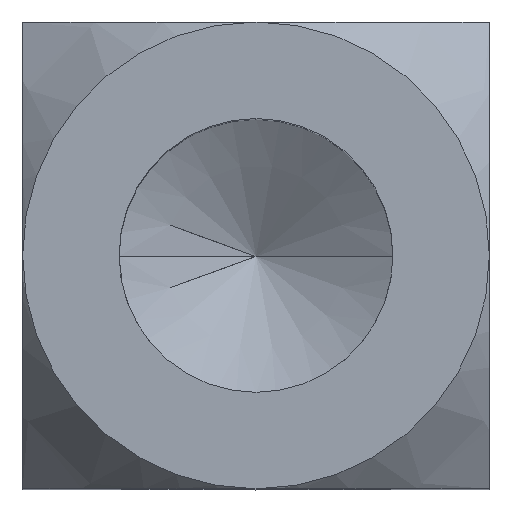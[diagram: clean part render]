
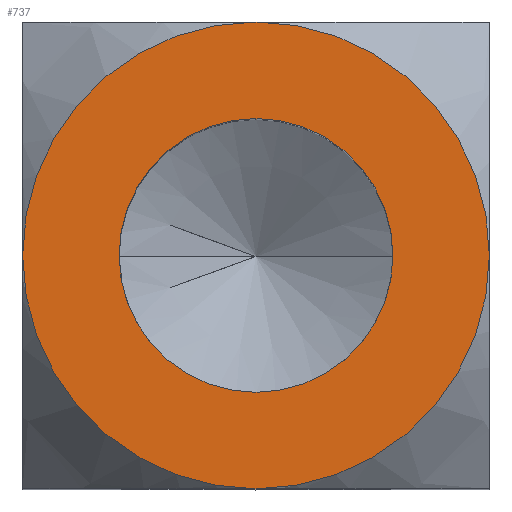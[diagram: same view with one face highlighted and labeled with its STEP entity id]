
A CAD part, top view. The second image highlights one B-rep face of the part: STEP entity #737.
In plain terms, the highlighted planar face has unit normal (0, 0, 1).
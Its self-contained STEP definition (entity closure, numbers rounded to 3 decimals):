
#25 = CARTESIAN_POINT ( 'NONE',  ( 0., 0., 22. ) ) ;
#64 = DIRECTION ( 'NONE',  ( 0., 0., 1. ) ) ;
#78 = ORIENTED_EDGE ( 'NONE', *, *, #853, .T. ) ;
#108 = ORIENTED_EDGE ( 'NONE', *, *, #408, .F. ) ;
#109 = PLANE ( 'NONE',  #1030 ) ;
#112 = EDGE_CURVE ( 'NONE', #493, #495, #297, .T. ) ;
#132 = AXIS2_PLACEMENT_3D ( 'NONE', #685, #988, #965 ) ;
#148 = CIRCLE ( 'NONE', #372, 7.5 ) ;
#157 = CARTESIAN_POINT ( 'NONE',  ( -4.4, 0., 22. ) ) ;
#218 = DIRECTION ( 'NONE',  ( 0., -1., 0. ) ) ;
#229 = CIRCLE ( 'NONE', #389, 4.4 ) ;
#274 = CARTESIAN_POINT ( 'NONE',  ( -7.5, 0., 22. ) ) ;
#297 = CIRCLE ( 'NONE', #880, 7.5 ) ;
#350 = EDGE_CURVE ( 'NONE', #495, #644, #477, .T. ) ;
#355 = CARTESIAN_POINT ( 'NONE',  ( 7.5, 0., 22. ) ) ;
#364 = FACE_OUTER_BOUND ( 'NONE', #1067, .T. ) ;
#369 = DIRECTION ( 'NONE',  ( 0., 0., 1. ) ) ;
#372 = AXIS2_PLACEMENT_3D ( 'NONE', #1044, #64, #1124 ) ;
#389 = AXIS2_PLACEMENT_3D ( 'NONE', #835, #1018, #218 ) ;
#401 = AXIS2_PLACEMENT_3D ( 'NONE', #25, #562, #1065 ) ;
#408 = EDGE_CURVE ( 'NONE', #1060, #531, #229, .T. ) ;
#451 = CARTESIAN_POINT ( 'NONE',  ( 4.4, 0., 22. ) ) ;
#466 = CARTESIAN_POINT ( 'NONE',  ( -7.59, -7.59, 22. ) ) ;
#468 = ORIENTED_EDGE ( 'NONE', *, *, #624, .T. ) ;
#477 = CIRCLE ( 'NONE', #401, 7.5 ) ;
#493 = VERTEX_POINT ( 'NONE', #1033 ) ;
#495 = VERTEX_POINT ( 'NONE', #355 ) ;
#531 = VERTEX_POINT ( 'NONE', #157 ) ;
#562 = DIRECTION ( 'NONE',  ( 0., 0., 1. ) ) ;
#593 = DIRECTION ( 'NONE',  ( 0., -1., 0. ) ) ;
#597 = CIRCLE ( 'NONE', #132, 7.5 ) ;
#624 = EDGE_CURVE ( 'NONE', #644, #1040, #597, .T. ) ;
#644 = VERTEX_POINT ( 'NONE', #1073 ) ;
#684 = EDGE_LOOP ( 'NONE', ( #108, #740 ) ) ;
#685 = CARTESIAN_POINT ( 'NONE',  ( 0., 0., 22. ) ) ;
#725 = DIRECTION ( 'NONE',  ( 1., 0., 0. ) ) ;
#737 = ADVANCED_FACE ( 'NONE', ( #1055, #364 ), #109, .T. ) ;
#740 = ORIENTED_EDGE ( 'NONE', *, *, #1104, .F. ) ;
#760 = CARTESIAN_POINT ( 'NONE',  ( 0., 0., 22. ) ) ;
#761 = DIRECTION ( 'NONE',  ( 0., 0., 1. ) ) ;
#822 = CIRCLE ( 'NONE', #910, 4.4 ) ;
#835 = CARTESIAN_POINT ( 'NONE',  ( 0., 0., 22. ) ) ;
#848 = DIRECTION ( 'NONE',  ( 0., 0., 1. ) ) ;
#849 = ORIENTED_EDGE ( 'NONE', *, *, #112, .T. ) ;
#853 = EDGE_CURVE ( 'NONE', #1040, #493, #148, .T. ) ;
#880 = AXIS2_PLACEMENT_3D ( 'NONE', #760, #848, #919 ) ;
#910 = AXIS2_PLACEMENT_3D ( 'NONE', #1003, #761, #593 ) ;
#919 = DIRECTION ( 'NONE',  ( -1., 0., 0. ) ) ;
#965 = DIRECTION ( 'NONE',  ( -1., 0., 0. ) ) ;
#988 = DIRECTION ( 'NONE',  ( 0., 0., 1. ) ) ;
#1003 = CARTESIAN_POINT ( 'NONE',  ( 0., 0., 22. ) ) ;
#1018 = DIRECTION ( 'NONE',  ( 0., 0., 1. ) ) ;
#1030 = AXIS2_PLACEMENT_3D ( 'NONE', #466, #369, #725 ) ;
#1033 = CARTESIAN_POINT ( 'NONE',  ( 0., -7.5, 22. ) ) ;
#1040 = VERTEX_POINT ( 'NONE', #274 ) ;
#1044 = CARTESIAN_POINT ( 'NONE',  ( 0., 0., 22. ) ) ;
#1055 = FACE_BOUND ( 'NONE', #684, .T. ) ;
#1060 = VERTEX_POINT ( 'NONE', #451 ) ;
#1065 = DIRECTION ( 'NONE',  ( -1., 0., 0. ) ) ;
#1067 = EDGE_LOOP ( 'NONE', ( #849, #1127, #468, #78 ) ) ;
#1073 = CARTESIAN_POINT ( 'NONE',  ( 0., 7.5, 22. ) ) ;
#1104 = EDGE_CURVE ( 'NONE', #531, #1060, #822, .T. ) ;
#1124 = DIRECTION ( 'NONE',  ( -1., 0., 0. ) ) ;
#1127 = ORIENTED_EDGE ( 'NONE', *, *, #350, .T. ) ;
